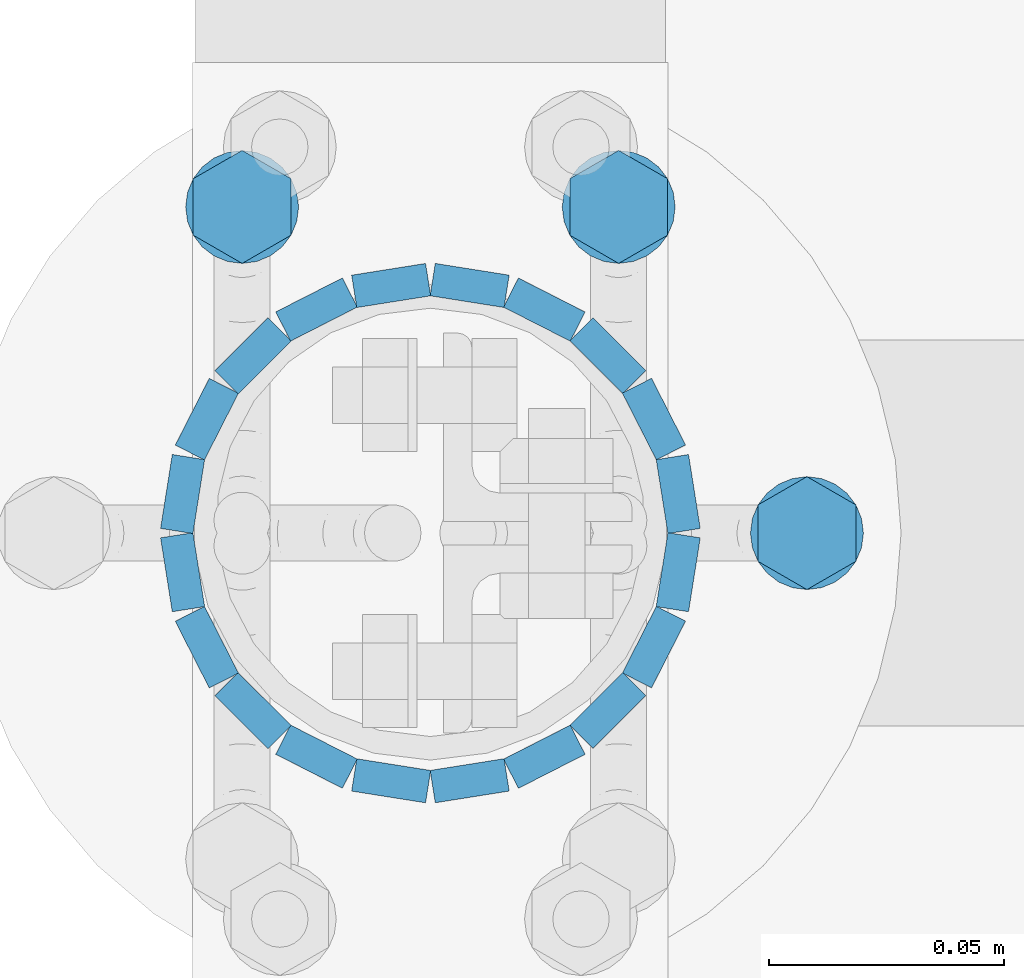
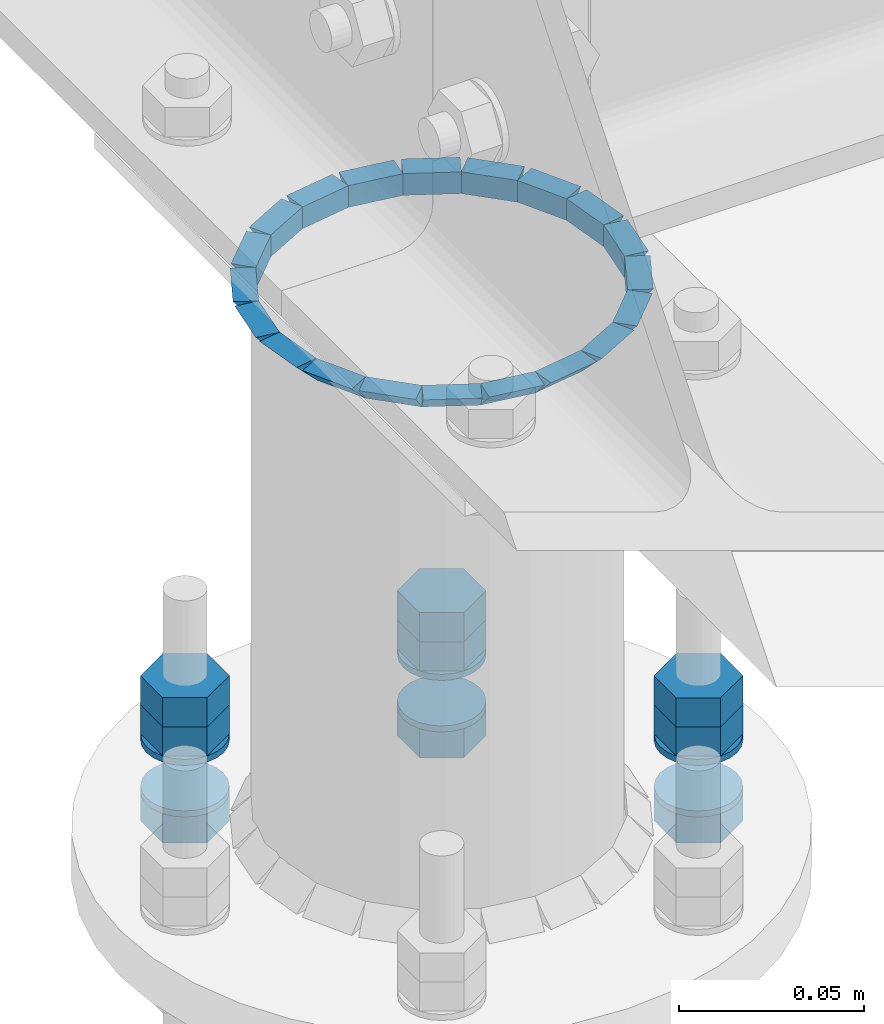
# One storey, part 75 of 84: 40 fasteners, 15 mechanical fasteners.
"""IFC4 building model written with IfcOpenShell, lengths in metres."""

from ifc_helpers import new_model, si_unit, frame, origin_with_axes, place, context, project, spatial, polyline, outline, extrude, type_object, element, save


model = new_model("IFC4")

# Units and contexts
model_context = context("Model", 3, precision=1e-05, world=origin_with_axes())
ifc_project = project(units=[si_unit("LENGTHUNIT", "METRE"), si_unit("AREAUNIT", "SQUARE_METRE"), si_unit("VOLUMEUNIT", "CUBIC_METRE"), si_unit("MASSUNIT", "GRAM", prefix="KILO"), si_unit("TIMEUNIT", "SECOND"), si_unit("PLANEANGLEUNIT", "RADIAN"), si_unit("SOLIDANGLEUNIT", "STERADIAN"), si_unit("THERMODYNAMICTEMPERATUREUNIT", "DEGREE_CELSIUS")], contexts=[model_context])

# Site, building, storey
placement_1 = place(None, origin_with_axes())
site = spatial("IfcSite", under=ifc_project, at=placement_1, Name="Italia", CompositionType="ELEMENT")
building = spatial("IfcBuilding", under=site, at=placement_1, Name="Tettoia", CompositionType="ELEMENT")
storey_placement = place(None, frame((0.0, 0.0, 4.199999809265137), z_axis=(0.0, 0.0, 1.0), x_axis=(1.0, 0.0, 0.0)))
storey = spatial("IfcBuildingStorey", under=building, at=storey_placement, Name="Storey 1", CompositionType="ELEMENT", Elevation=4.199999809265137)

# Mechanical fasteners
mechanical_fastener_type_1 = type_object("IfcMechanicalFastenerType", Name="Collegamento -014_0114", PredefinedType="BOLT")
placement_2 = place(placement_1, origin_with_axes())
mechanical_fastener_1_placement = place(placement_2, origin_with_axes())
element("IfcMechanicalFastener", 1, at=mechanical_fastener_1_placement, inside=storey, type_object=mechanical_fastener_type_1, Name="Collegamento -014_0114", NominalDiameter=0.0119993, context=model_context, shape_type="SweptSolid", body=[
    extrude(outline(polyline([(0.0, 0.0), (-0.012001, 0.0), (-0.0179996, 0.0103923), (-0.012001, 0.0207846), (0.0, 0.0207846), (0.00599861, 0.0103923), (0.0, 0.0)])), frame((0.190392, 19.826, 4.017), z_axis=(0.0, 0.0, 1.0), x_axis=(0.0, 1.0, 0.0)), (0.0, 0.0, 1.0), 0.00959969),
])
mechanical_fastener_type_2 = type_object("IfcMechanicalFastenerType", Name="Collegamento -014_0114", PredefinedType="BOLT")
mechanical_fastener_2_placement = place(placement_2, origin_with_axes())
element("IfcMechanicalFastener", 2, at=mechanical_fastener_2_placement, inside=storey, type_object=mechanical_fastener_type_2, Name="Collegamento -014_0114", NominalDiameter=0.0119993, context=model_context, shape_type="SweptSolid", body=[
    extrude(outline(polyline([(0.0, 0.0), (-0.012001, 0.0), (-0.0179996, 0.0103923), (-0.012001, 0.0207846), (0.0, 0.0207846), (0.00599861, 0.0103923), (0.0, 0.0)])), frame((0.190392, 19.826, 4.0266), z_axis=(0.0, 0.0, 1.0), x_axis=(0.0, 1.0, 0.0)), (0.0, 0.0, 1.0), 0.00960016),
])
mechanical_fastener_type_3 = type_object("IfcMechanicalFastenerType", Name="Collegamento -014_0114", PredefinedType="BOLT")
mechanical_fastener_3_placement = place(placement_2, origin_with_axes())
element("IfcMechanicalFastener", 3, at=mechanical_fastener_3_placement, inside=storey, type_object=mechanical_fastener_type_3, Name="Collegamento -014_0114", NominalDiameter=0.0119993, context=model_context, shape_type="SweptSolid", body=[
    extrude(outline(polyline([(0.0, 0.0), (-0.012001, 0.0), (-0.0179996, 0.0103923), (-0.012001, 0.0207846), (0.0, 0.0207846), (0.00599861, 0.0103923), (0.0, 0.0)])), frame((0.190392, 19.826, 3.9884), z_axis=(0.0, 0.0, 1.0), x_axis=(0.0, 1.0, 0.0)), (0.0, 0.0, 1.0), 0.00959992),
])
mechanical_fastener_type_4 = type_object("IfcMechanicalFastenerType", Name="Collegamento -014_0114", PredefinedType="BOLT")
mechanical_fastener_4_placement = place(placement_2, origin_with_axes())
element("IfcMechanicalFastener", 4, at=mechanical_fastener_4_placement, inside=storey, type_object=mechanical_fastener_type_4, Name="Collegamento -014_0114", NominalDiameter=0.024, context=model_context, shape_type="SweptSolid", body=[
    extrude(outline(polyline([(0.0, 0.0), (-0.000408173, -0.00310583), (-0.00160599, -0.006), (-0.00351334, -0.00848529), (-0.00599861, -0.0103923), (-0.00889397, -0.0115911), (-0.0119991, -0.012), (-0.0151043, -0.0115911), (-0.0179996, -0.0103923), (-0.0204849, -0.00848529), (-0.0223923, -0.006), (-0.0235901, -0.00310583), (-0.0239983, 0.0), (-0.0235901, 0.00310583), (-0.0223923, 0.006), (-0.0204849, 0.00848529), (-0.0179996, 0.0103923), (-0.0151043, 0.0115911), (-0.0119991, 0.012), (-0.00889397, 0.0115911), (-0.00599861, 0.0103923), (-0.00351334, 0.00848527), (-0.00160599, 0.006), (-0.000408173, 0.00310582), (0.0, 0.0)])), frame((0.18, 19.832, 4.015), z_axis=(0.0, 0.0, 1.0), x_axis=(0.0, 1.0, 0.0)), (0.0, 0.0, 1.0), 0.00200033),
])
mechanical_fastener_type_5 = type_object("IfcMechanicalFastenerType", Name="Collegamento -014_0114", PredefinedType="BOLT")
mechanical_fastener_5_placement = place(placement_2, origin_with_axes())
element("IfcMechanicalFastener", 5, at=mechanical_fastener_5_placement, inside=storey, type_object=mechanical_fastener_type_5, Name="Collegamento -014_0114", NominalDiameter=0.024, context=model_context, shape_type="SweptSolid", body=[
    extrude(outline(polyline([(0.0, 0.0), (-0.000408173, -0.00310583), (-0.00160599, -0.006), (-0.00351334, -0.00848529), (-0.00599861, -0.0103923), (-0.00889397, -0.0115911), (-0.0119991, -0.012), (-0.0151043, -0.0115911), (-0.0179996, -0.0103923), (-0.0204849, -0.00848529), (-0.0223923, -0.006), (-0.0235901, -0.00310583), (-0.0239983, 0.0), (-0.0235901, 0.00310583), (-0.0223923, 0.006), (-0.0204849, 0.00848529), (-0.0179996, 0.0103923), (-0.0151043, 0.0115911), (-0.0119991, 0.012), (-0.00889397, 0.0115911), (-0.00599861, 0.0103923), (-0.00351334, 0.00848527), (-0.00160599, 0.006), (-0.000408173, 0.00310582), (0.0, 0.0)])), frame((0.18, 19.832, 3.998), z_axis=(0.0, 0.0, 1.0), x_axis=(0.0, 1.0, 0.0)), (0.0, 0.0, 1.0), 0.00200009),
])
mechanical_fastener_type_6 = type_object("IfcMechanicalFastenerType", Name="Collegamento -014_0114", PredefinedType="BOLT")
mechanical_fastener_6_placement = place(placement_2, origin_with_axes())
element("IfcMechanicalFastener", 6, at=mechanical_fastener_6_placement, inside=storey, type_object=mechanical_fastener_type_6, Name="Collegamento -014_0114", NominalDiameter=0.0119991, context=model_context, shape_type="SweptSolid", body=[
    extrude(outline(polyline([(0.0, 0.0), (-0.0119991, 0.0), (-0.0179996, 0.0103923), (-0.0119991, 0.0207846), (0.0, 0.0207846), (0.00600052, 0.0103923), (0.0, 0.0)])), frame((0.150392, 19.8953, 4.017), z_axis=(0.0, 0.0, 1.0), x_axis=(0.0, 1.0, 0.0)), (0.0, 0.0, 1.0), 0.00959969),
])
mechanical_fastener_type_7 = type_object("IfcMechanicalFastenerType", Name="Collegamento -014_0114", PredefinedType="BOLT")
mechanical_fastener_7_placement = place(placement_2, origin_with_axes())
element("IfcMechanicalFastener", 7, at=mechanical_fastener_7_placement, inside=storey, type_object=mechanical_fastener_type_7, Name="Collegamento -014_0114", NominalDiameter=0.0119991, context=model_context, shape_type="SweptSolid", body=[
    extrude(outline(polyline([(0.0, 0.0), (-0.0119991, 0.0), (-0.0179996, 0.0103923), (-0.0119991, 0.0207846), (0.0, 0.0207846), (0.00600052, 0.0103923), (0.0, 0.0)])), frame((0.150392, 19.8953, 4.0266), z_axis=(0.0, 0.0, 1.0), x_axis=(0.0, 1.0, 0.0)), (0.0, 0.0, 1.0), 0.00960016),
])
mechanical_fastener_type_8 = type_object("IfcMechanicalFastenerType", Name="Collegamento -014_0114", PredefinedType="BOLT")
mechanical_fastener_8_placement = place(placement_2, origin_with_axes())
element("IfcMechanicalFastener", 8, at=mechanical_fastener_8_placement, inside=storey, type_object=mechanical_fastener_type_8, Name="Collegamento -014_0114", NominalDiameter=0.0119991, context=model_context, shape_type="SweptSolid", body=[
    extrude(outline(polyline([(0.0, 0.0), (-0.0119991, 0.0), (-0.0179996, 0.0103923), (-0.0119991, 0.0207846), (0.0, 0.0207846), (0.00600052, 0.0103923), (0.0, 0.0)])), frame((0.150392, 19.8953, 3.9884), z_axis=(0.0, 0.0, 1.0), x_axis=(0.0, 1.0, 0.0)), (0.0, 0.0, 1.0), 0.00959992),
])
mechanical_fastener_type_9 = type_object("IfcMechanicalFastenerType", Name="Collegamento -014_0114", PredefinedType="BOLT")
mechanical_fastener_9_placement = place(placement_2, origin_with_axes())
element("IfcMechanicalFastener", 9, at=mechanical_fastener_9_placement, inside=storey, type_object=mechanical_fastener_type_9, Name="Collegamento -014_0114", NominalDiameter=0.024, context=model_context, shape_type="SweptSolid", body=[
    extrude(outline(polyline([(0.0, 0.0), (-0.000408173, -0.00310583), (-0.00160599, -0.006), (-0.00351334, -0.00848529), (-0.00599861, -0.0103923), (-0.00889397, -0.0115911), (-0.0119991, -0.012), (-0.0151043, -0.0115911), (-0.0179996, -0.0103923), (-0.0204849, -0.00848529), (-0.0223923, -0.006), (-0.0235901, -0.00310583), (-0.0239983, 0.0), (-0.0235901, 0.00310583), (-0.0223923, 0.006), (-0.0204849, 0.00848529), (-0.0179996, 0.0103923), (-0.0151043, 0.0115911), (-0.0119991, 0.012), (-0.00889397, 0.0115911), (-0.00599861, 0.0103923), (-0.00351334, 0.00848527), (-0.00160599, 0.006), (-0.000408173, 0.00310582), (0.0, 0.0)])), frame((0.14, 19.9013, 4.015), z_axis=(0.0, 0.0, 1.0), x_axis=(0.0, 1.0, 0.0)), (0.0, 0.0, 1.0), 0.00200033),
])
mechanical_fastener_type_10 = type_object("IfcMechanicalFastenerType", Name="Collegamento -014_0114", PredefinedType="BOLT")
mechanical_fastener_10_placement = place(placement_2, origin_with_axes())
element("IfcMechanicalFastener", 10, at=mechanical_fastener_10_placement, inside=storey, type_object=mechanical_fastener_type_10, Name="Collegamento -014_0114", NominalDiameter=0.024, context=model_context, shape_type="SweptSolid", body=[
    extrude(outline(polyline([(0.0, 0.0), (-0.000408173, -0.00310583), (-0.00160599, -0.006), (-0.00351334, -0.00848529), (-0.00599861, -0.0103923), (-0.00889397, -0.0115911), (-0.0119991, -0.012), (-0.0151043, -0.0115911), (-0.0179996, -0.0103923), (-0.0204849, -0.00848529), (-0.0223923, -0.006), (-0.0235901, -0.00310583), (-0.0239983, 0.0), (-0.0235901, 0.00310583), (-0.0223923, 0.006), (-0.0204849, 0.00848529), (-0.0179996, 0.0103923), (-0.0151043, 0.0115911), (-0.0119991, 0.012), (-0.00889397, 0.0115911), (-0.00599861, 0.0103923), (-0.00351334, 0.00848527), (-0.00160599, 0.006), (-0.000408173, 0.00310582), (0.0, 0.0)])), frame((0.14, 19.9013, 3.998), z_axis=(0.0, 0.0, 1.0), x_axis=(0.0, 1.0, 0.0)), (0.0, 0.0, 1.0), 0.00200009),
])
mechanical_fastener_type_11 = type_object("IfcMechanicalFastenerType", Name="Collegamento -014_0114", PredefinedType="BOLT")
mechanical_fastener_11_placement = place(placement_2, origin_with_axes())
element("IfcMechanicalFastener", 11, at=mechanical_fastener_11_placement, inside=storey, type_object=mechanical_fastener_type_11, Name="Collegamento -014_0114", NominalDiameter=0.0119991, context=model_context, shape_type="SweptSolid", body=[
    extrude(outline(polyline([(0.0, 0.0), (-0.0119991, 0.0), (-0.0179996, 0.0103923), (-0.0119991, 0.0207846), (0.0, 0.0207846), (0.00600052, 0.0103923), (0.0, 0.0)])), frame((0.0703923, 19.8953, 4.017), z_axis=(0.0, 0.0, 1.0), x_axis=(0.0, 1.0, 0.0)), (0.0, 0.0, 1.0), 0.00959969),
])
mechanical_fastener_type_12 = type_object("IfcMechanicalFastenerType", Name="Collegamento -014_0114", PredefinedType="BOLT")
mechanical_fastener_12_placement = place(placement_2, origin_with_axes())
element("IfcMechanicalFastener", 12, at=mechanical_fastener_12_placement, inside=storey, type_object=mechanical_fastener_type_12, Name="Collegamento -014_0114", NominalDiameter=0.0119991, context=model_context, shape_type="SweptSolid", body=[
    extrude(outline(polyline([(0.0, 0.0), (-0.0119991, 0.0), (-0.0179996, 0.0103923), (-0.0119991, 0.0207846), (0.0, 0.0207846), (0.00600052, 0.0103923), (0.0, 0.0)])), frame((0.0703923, 19.8953, 4.0266), z_axis=(0.0, 0.0, 1.0), x_axis=(0.0, 1.0, 0.0)), (0.0, 0.0, 1.0), 0.00960016),
])
mechanical_fastener_type_13 = type_object("IfcMechanicalFastenerType", Name="Collegamento -014_0114", PredefinedType="BOLT")
mechanical_fastener_13_placement = place(placement_2, origin_with_axes())
element("IfcMechanicalFastener", 13, at=mechanical_fastener_13_placement, inside=storey, type_object=mechanical_fastener_type_13, Name="Collegamento -014_0114", NominalDiameter=0.0119991, context=model_context, shape_type="SweptSolid", body=[
    extrude(outline(polyline([(0.0, 0.0), (-0.0119991, 0.0), (-0.0179996, 0.0103923), (-0.0119991, 0.0207846), (0.0, 0.0207846), (0.00600052, 0.0103923), (0.0, 0.0)])), frame((0.0703923, 19.8953, 3.9884), z_axis=(0.0, 0.0, 1.0), x_axis=(0.0, 1.0, 0.0)), (0.0, 0.0, 1.0), 0.00959992),
])
mechanical_fastener_type_14 = type_object("IfcMechanicalFastenerType", Name="Collegamento -014_0114", PredefinedType="BOLT")
mechanical_fastener_14_placement = place(placement_2, origin_with_axes())
element("IfcMechanicalFastener", 14, at=mechanical_fastener_14_placement, inside=storey, type_object=mechanical_fastener_type_14, Name="Collegamento -014_0114", NominalDiameter=0.024, context=model_context, shape_type="SweptSolid", body=[
    extrude(outline(polyline([(0.0, 0.0), (-0.000408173, -0.00310583), (-0.00160599, -0.006), (-0.00351334, -0.00848528), (-0.00599861, -0.0103923), (-0.00889397, -0.0115911), (-0.0119991, -0.012), (-0.0151043, -0.0115911), (-0.0179996, -0.0103923), (-0.0204849, -0.00848528), (-0.0223923, -0.006), (-0.0235901, -0.00310583), (-0.0239983, 0.0), (-0.0235901, 0.00310583), (-0.0223923, 0.006), (-0.0204849, 0.00848528), (-0.0179996, 0.0103923), (-0.0151043, 0.0115911), (-0.0119991, 0.012), (-0.00889397, 0.0115911), (-0.00599861, 0.0103923), (-0.00351334, 0.00848528), (-0.00160599, 0.006), (-0.000408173, 0.00310583), (0.0, 0.0)])), frame((0.06, 19.9013, 4.015), z_axis=(0.0, 0.0, 1.0), x_axis=(0.0, 1.0, 0.0)), (0.0, 0.0, 1.0), 0.00200033),
])
mechanical_fastener_type_15 = type_object("IfcMechanicalFastenerType", Name="Collegamento -014_0114", PredefinedType="BOLT")
mechanical_fastener_15_placement = place(placement_2, origin_with_axes())
element("IfcMechanicalFastener", 15, at=mechanical_fastener_15_placement, inside=storey, type_object=mechanical_fastener_type_15, Name="Collegamento -014_0114", NominalDiameter=0.024, context=model_context, shape_type="SweptSolid", body=[
    extrude(outline(polyline([(0.0, 0.0), (-0.000408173, -0.00310583), (-0.00160599, -0.006), (-0.00351334, -0.00848528), (-0.00599861, -0.0103923), (-0.00889397, -0.0115911), (-0.0119991, -0.012), (-0.0151043, -0.0115911), (-0.0179996, -0.0103923), (-0.0204849, -0.00848528), (-0.0223923, -0.006), (-0.0235901, -0.00310583), (-0.0239983, 0.0), (-0.0235901, 0.00310583), (-0.0223923, 0.006), (-0.0204849, 0.00848528), (-0.0179996, 0.0103923), (-0.0151043, 0.0115911), (-0.0119991, 0.012), (-0.00889397, 0.0115911), (-0.00599861, 0.0103923), (-0.00351334, 0.00848528), (-0.00160599, 0.006), (-0.000408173, 0.00310583), (0.0, 0.0)])), frame((0.06, 19.9013, 3.998), z_axis=(0.0, 0.0, 1.0), x_axis=(0.0, 1.0, 0.0)), (0.0, 0.0, 1.0), 0.00200009),
])

# Fasteners
fastener_type_1 = type_object("IfcFastenerType", Name="Collegamento 0114_-014", PredefinedType="WELD")
fastener_1_placement = place(placement_2, origin_with_axes())
element("IfcFastener", 16, at=fastener_1_placement, inside=storey, type_object=fastener_type_1, Name="Collegamento 0114_-014", context=model_context, shape_type="SweptSolid", body=[
    extrude(outline(polyline([(0.0, 0.0), (-0.0069561, -0.00717354), (-0.0069561, 0.0), (0.0, 0.0)])), frame((0.101031, 19.8773, 4.19505), z_axis=(0.98768937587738, -0.15642786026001, 0.0), x_axis=(0.15642786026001, 0.98768937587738, 0.0)), (0.0, 0.0, 1.0), 0.0158999),
])
fastener_type_2 = type_object("IfcFastenerType", Name="Collegamento 0114_-014", PredefinedType="WELD")
fastener_2_placement = place(placement_2, origin_with_axes())
element("IfcFastener", 17, at=fastener_2_placement, inside=storey, type_object=fastener_type_2, Name="Collegamento 0114_-014", context=model_context, shape_type="SweptSolid", body=[
    extrude(outline(polyline([(0.0, 0.0), (-0.0069561, -0.00717354), (-0.0069561, 0.0), (0.0, 0.0)])), frame((0.118697, 19.8742, 4.19505), z_axis=(0.890983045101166, -0.454036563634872, 0.0), x_axis=(0.454036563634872, 0.890983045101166, 0.0)), (0.0, 0.0, 1.0), 0.0159003),
])
fastener_type_3 = type_object("IfcFastenerType", Name="Collegamento 0114_-014", PredefinedType="WELD")
fastener_3_placement = place(placement_2, origin_with_axes())
element("IfcFastener", 18, at=fastener_3_placement, inside=storey, type_object=fastener_type_3, Name="Collegamento 0114_-014", context=model_context, shape_type="SweptSolid", body=[
    extrude(outline(polyline([(0.0, 0.0), (-0.00695896, -0.00717354), (-0.00695896, 0.0), (0.0, 0.0)])), frame((0.134532, 19.8658, 4.19505), z_axis=(0.707138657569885, -0.707074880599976, 0.0), x_axis=(0.707074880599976, 0.707138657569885, 0.0)), (0.0, 0.0, 1.0), 0.0158992),
])
fastener_type_4 = type_object("IfcFastenerType", Name="Collegamento 0114_-014", PredefinedType="WELD")
fastener_4_placement = place(placement_2, origin_with_axes())
element("IfcFastener", 19, at=fastener_4_placement, inside=storey, type_object=fastener_type_4, Name="Collegamento 0114_-014", context=model_context, shape_type="SweptSolid", body=[
    extrude(outline(polyline([(0.0, 0.0), (-0.00695896, -0.00717354), (-0.00695896, 0.0), (0.0, 0.0)])), frame((0.146988, 19.8529, 4.19505), z_axis=(0.453968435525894, -0.89101779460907, 0.0), x_axis=(0.89101779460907, 0.453968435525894, 0.0)), (0.0, 0.0, 1.0), 0.0159007),
])
fastener_type_5 = type_object("IfcFastenerType", Name="Collegamento 0114_-014", PredefinedType="WELD")
fastener_5_placement = place(placement_2, origin_with_axes())
element("IfcFastener", 20, at=fastener_5_placement, inside=storey, type_object=fastener_type_5, Name="Collegamento 0114_-014", context=model_context, shape_type="SweptSolid", body=[
    extrude(outline(polyline([(0.0, 0.0), (-0.00695825, -0.00717354), (-0.00695825, 0.0), (0.0, 0.0)])), frame((0.154844, 19.8367, 4.19505), z_axis=(0.156442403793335, -0.987687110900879, 0.0), x_axis=(0.987687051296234, 0.156442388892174, 0.0)), (0.0, 0.0, 1.0), 0.015899),
])
fastener_type_6 = type_object("IfcFastenerType", Name="Collegamento 0114_-014", PredefinedType="WELD")
fastener_6_placement = place(placement_2, origin_with_axes())
element("IfcFastener", 21, at=fastener_6_placement, inside=storey, type_object=fastener_type_6, Name="Collegamento 0114_-014", context=model_context, shape_type="SweptSolid", body=[
    extrude(outline(polyline([(0.0, 0.0), (-0.00695825, -0.00717354), (-0.00695825, 0.0), (0.0, 0.0)])), frame((0.157331, 19.819, 4.19505), z_axis=(-0.156442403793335, -0.987687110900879, 0.0), x_axis=(0.987687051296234, -0.156442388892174, 0.0)), (0.0, 0.0, 1.0), 0.015899),
])
fastener_type_7 = type_object("IfcFastenerType", Name="Collegamento 0114_-014", PredefinedType="WELD")
fastener_7_placement = place(placement_2, origin_with_axes())
element("IfcFastener", 22, at=fastener_7_placement, inside=storey, type_object=fastener_type_7, Name="Collegamento 0114_-014", context=model_context, shape_type="SweptSolid", body=[
    extrude(outline(polyline([(0.0, 0.0), (-0.00695801, -0.00717354), (-0.00695801, 0.0), (0.0, 0.0)])), frame((0.154206, 19.8013, 4.19505), z_axis=(-0.453967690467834, -0.891018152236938, 0.0), x_axis=(0.891018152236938, -0.453967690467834, 0.0)), (0.0, 0.0, 1.0), 0.0159007),
])
fastener_type_8 = type_object("IfcFastenerType", Name="Collegamento 0114_-014", PredefinedType="WELD")
fastener_8_placement = place(placement_2, origin_with_axes())
element("IfcFastener", 23, at=fastener_8_placement, inside=storey, type_object=fastener_type_8, Name="Collegamento 0114_-014", context=model_context, shape_type="SweptSolid", body=[
    extrude(outline(polyline([(0.0, 0.0), (-0.00695896, -0.00717354), (-0.00695896, 0.0), (0.0, 0.0)])), frame((0.145775, 19.7855, 4.19505), z_axis=(-0.707139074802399, -0.707074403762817, 0.0), x_axis=(0.707074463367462, -0.707139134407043, 0.0)), (0.0, 0.0, 1.0), 0.0158992),
])
fastener_type_9 = type_object("IfcFastenerType", Name="Collegamento 0114_-014", PredefinedType="WELD")
fastener_9_placement = place(placement_2, origin_with_axes())
element("IfcFastener", 24, at=fastener_9_placement, inside=storey, type_object=fastener_type_9, Name="Collegamento 0114_-014", context=model_context, shape_type="SweptSolid", body=[
    extrude(outline(polyline([(0.0, 0.0), (-0.00695801, -0.00717354), (-0.00695801, 0.0), (0.0, 0.0)])), frame((0.132864, 19.773, 4.19505), z_axis=(-0.890983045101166, -0.454036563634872, 0.0), x_axis=(0.454036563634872, -0.890983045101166, 0.0)), (0.0, 0.0, 1.0), 0.0159003),
])
fastener_type_10 = type_object("IfcFastenerType", Name="Collegamento 0114_-014", PredefinedType="WELD")
fastener_10_placement = place(placement_2, origin_with_axes())
element("IfcFastener", 25, at=fastener_10_placement, inside=storey, type_object=fastener_type_10, Name="Collegamento 0114_-014", context=model_context, shape_type="SweptSolid", body=[
    extrude(outline(polyline([(0.0, 0.0), (-0.0069561, -0.00717354), (-0.0069561, 0.0), (0.0, 0.0)])), frame((0.116736, 19.7652, 4.19505), z_axis=(-0.98768937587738, -0.156428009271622, 0.0), x_axis=(0.156428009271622, -0.98768937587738, 0.0)), (0.0, 0.0, 1.0), 0.0158999),
])
fastener_type_11 = type_object("IfcFastenerType", Name="Collegamento 0114_-014", PredefinedType="WELD")
fastener_11_placement = place(placement_2, origin_with_axes())
element("IfcFastener", 26, at=fastener_11_placement, inside=storey, type_object=fastener_type_11, Name="Collegamento 0114_-014", context=model_context, shape_type="SweptSolid", body=[
    extrude(outline(polyline([(0.0, 0.0), (-0.0069561, -0.00717354), (-0.0069561, 0.0), (0.0, 0.0)])), frame((0.0989686, 19.7627, 4.19505), z_axis=(-0.98768937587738, 0.156428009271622, 0.0), x_axis=(-0.156428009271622, -0.98768937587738, 0.0)), (0.0, 0.0, 1.0), 0.0158999),
])
fastener_type_12 = type_object("IfcFastenerType", Name="Collegamento 0114_-014", PredefinedType="WELD")
fastener_12_placement = place(placement_2, origin_with_axes())
element("IfcFastener", 27, at=fastener_12_placement, inside=storey, type_object=fastener_type_12, Name="Collegamento 0114_-014", context=model_context, shape_type="SweptSolid", body=[
    extrude(outline(polyline([(0.0, 0.0), (-0.00695801, -0.00717354), (-0.00695801, 0.0), (0.0, 0.0)])), frame((0.0813028, 19.7658, 4.19505), z_axis=(-0.890983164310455, 0.454036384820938, 0.0), x_axis=(-0.454036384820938, -0.890983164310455, 0.0)), (0.0, 0.0, 1.0), 0.0159003),
])
fastener_type_13 = type_object("IfcFastenerType", Name="Collegamento 0114_-014", PredefinedType="WELD")
fastener_13_placement = place(placement_2, origin_with_axes())
element("IfcFastener", 28, at=fastener_13_placement, inside=storey, type_object=fastener_type_13, Name="Collegamento 0114_-014", context=model_context, shape_type="SweptSolid", body=[
    extrude(outline(polyline([(0.0, 0.0), (-0.00695896, -0.00717354), (-0.00695896, 0.0), (0.0, 0.0)])), frame((0.0654676, 19.7742, 4.19505), z_axis=(-0.707138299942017, 0.707075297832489, 0.0), x_axis=(-0.707075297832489, -0.707138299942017, 0.0)), (0.0, 0.0, 1.0), 0.0158992),
])
fastener_type_14 = type_object("IfcFastenerType", Name="Collegamento 0114_-014", PredefinedType="WELD")
fastener_14_placement = place(placement_2, origin_with_axes())
element("IfcFastener", 29, at=fastener_14_placement, inside=storey, type_object=fastener_type_14, Name="Collegamento 0114_-014", context=model_context, shape_type="SweptSolid", body=[
    extrude(outline(polyline([(0.0, 0.0), (-0.00695896, -0.00717354), (-0.00695896, 0.0), (0.0, 0.0)])), frame((0.0530121, 19.7871, 4.19505), z_axis=(-0.453967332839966, 0.891018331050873, 0.0), x_axis=(-0.891018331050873, -0.453967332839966, 0.0)), (0.0, 0.0, 1.0), 0.0159007),
])
fastener_type_15 = type_object("IfcFastenerType", Name="Collegamento 0114_-014", PredefinedType="WELD")
fastener_15_placement = place(placement_2, origin_with_axes())
element("IfcFastener", 30, at=fastener_15_placement, inside=storey, type_object=fastener_type_15, Name="Collegamento 0114_-014", context=model_context, shape_type="SweptSolid", body=[
    extrude(outline(polyline([(0.0, 0.0), (-0.00695801, -0.00717354), (-0.00695801, 0.0), (0.0, 0.0)])), frame((0.0451564, 19.8033, 4.19505), z_axis=(-0.156443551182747, 0.987686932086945, 0.0), x_axis=(-0.9876868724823, -0.156443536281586, 0.0)), (0.0, 0.0, 1.0), 0.015899),
])
fastener_type_16 = type_object("IfcFastenerType", Name="Collegamento 0114_-014", PredefinedType="WELD")
fastener_16_placement = place(placement_2, origin_with_axes())
element("IfcFastener", 31, at=fastener_16_placement, inside=storey, type_object=fastener_type_16, Name="Collegamento 0114_-014", context=model_context, shape_type="SweptSolid", body=[
    extrude(outline(polyline([(0.0, 0.0), (-0.00695825, -0.00717354), (-0.00695825, 0.0), (0.0, 0.0)])), frame((0.0426691, 19.821, 4.19505), z_axis=(0.156443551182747, 0.987686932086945, 0.0), x_axis=(-0.9876868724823, 0.156443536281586, 0.0)), (0.0, 0.0, 1.0), 0.015899),
])
fastener_type_17 = type_object("IfcFastenerType", Name="Collegamento 0114_-014", PredefinedType="WELD")
fastener_17_placement = place(placement_2, origin_with_axes())
element("IfcFastener", 32, at=fastener_17_placement, inside=storey, type_object=fastener_type_17, Name="Collegamento 0114_-014", context=model_context, shape_type="SweptSolid", body=[
    extrude(outline(polyline([(0.0, 0.0), (-0.00695801, -0.00717354), (-0.00695801, 0.0), (0.0, 0.0)])), frame((0.0457937, 19.8387, 4.19505), z_axis=(0.453968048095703, 0.891017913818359, 0.0), x_axis=(-0.891017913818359, 0.453968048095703, 0.0)), (0.0, 0.0, 1.0), 0.0159007),
])
fastener_type_18 = type_object("IfcFastenerType", Name="Collegamento 0114_-014", PredefinedType="WELD")
fastener_18_placement = place(placement_2, origin_with_axes())
element("IfcFastener", 33, at=fastener_18_placement, inside=storey, type_object=fastener_type_18, Name="Collegamento 0114_-014", context=model_context, shape_type="SweptSolid", body=[
    extrude(outline(polyline([(0.0, 0.0), (-0.00695896, -0.00717354), (-0.00695896, 0.0), (0.0, 0.0)])), frame((0.0542247, 19.8545, 4.19505), z_axis=(0.707138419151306, 0.707075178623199, 0.0), x_axis=(-0.707075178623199, 0.707138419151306, 0.0)), (0.0, 0.0, 1.0), 0.0158992),
])
fastener_type_19 = type_object("IfcFastenerType", Name="Collegamento 0114_-014", PredefinedType="WELD")
fastener_19_placement = place(placement_2, origin_with_axes())
element("IfcFastener", 34, at=fastener_19_placement, inside=storey, type_object=fastener_type_19, Name="Collegamento 0114_-014", context=model_context, shape_type="SweptSolid", body=[
    extrude(outline(polyline([(0.0, 0.0), (-0.00695801, -0.00717354), (-0.00695801, 0.0), (0.0, 0.0)])), frame((0.0671359, 19.867, 4.19505), z_axis=(0.890982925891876, 0.454036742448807, 0.0), x_axis=(-0.454036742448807, 0.890982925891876, 0.0)), (0.0, 0.0, 1.0), 0.0159003),
])
fastener_type_20 = type_object("IfcFastenerType", Name="Collegamento 0114_-014", PredefinedType="WELD")
fastener_20_placement = place(placement_2, origin_with_axes())
element("IfcFastener", 35, at=fastener_20_placement, inside=storey, type_object=fastener_type_20, Name="Collegamento 0114_-014", context=model_context, shape_type="SweptSolid", body=[
    extrude(outline(polyline([(0.0, 0.0), (-0.00695801, -0.00717354), (-0.00695801, 0.0), (0.0, 0.0)])), frame((0.0832645, 19.8748, 4.19505), z_axis=(0.98768937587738, 0.15642786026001, 0.0), x_axis=(-0.15642786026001, 0.98768937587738, 0.0)), (0.0, 0.0, 1.0), 0.0158999),
])
fastener_type_21 = type_object("IfcFastenerType", Name="Collegamento 0114_-014", PredefinedType="WELD")
fastener_21_placement = place(placement_2, origin_with_axes())
element("IfcFastener", 36, at=fastener_21_placement, inside=storey, type_object=fastener_type_21, Name="Collegamento 0114_-014", context=model_context, shape_type="SweptSolid", body=[
    extrude(outline(polyline([(0.0, 0.0), (-0.0069561, -0.00717354), (-0.0069561, 0.0), (0.0, 0.0)])), frame((0.101031, 19.8773, 4.19505), z_axis=(0.98768937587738, -0.15642786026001, 0.0), x_axis=(0.15642786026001, 0.98768937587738, 0.0)), (0.0, 0.0, 1.0), 0.0158999),
])
fastener_type_22 = type_object("IfcFastenerType", Name="Collegamento 0114_-014", PredefinedType="WELD")
fastener_22_placement = place(placement_2, origin_with_axes())
element("IfcFastener", 37, at=fastener_22_placement, inside=storey, type_object=fastener_type_22, Name="Collegamento 0114_-014", context=model_context, shape_type="SweptSolid", body=[
    extrude(outline(polyline([(0.0, 0.0), (-0.0069561, -0.00717354), (-0.0069561, 0.0), (0.0, 0.0)])), frame((0.118697, 19.8742, 4.19505), z_axis=(0.890983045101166, -0.454036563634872, 0.0), x_axis=(0.454036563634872, 0.890983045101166, 0.0)), (0.0, 0.0, 1.0), 0.0159003),
])
fastener_type_23 = type_object("IfcFastenerType", Name="Collegamento 0114_-014", PredefinedType="WELD")
fastener_23_placement = place(placement_2, origin_with_axes())
element("IfcFastener", 38, at=fastener_23_placement, inside=storey, type_object=fastener_type_23, Name="Collegamento 0114_-014", context=model_context, shape_type="SweptSolid", body=[
    extrude(outline(polyline([(0.0, 0.0), (-0.00695896, -0.00717354), (-0.00695896, 0.0), (0.0, 0.0)])), frame((0.134532, 19.8658, 4.19505), z_axis=(0.707138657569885, -0.707074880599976, 0.0), x_axis=(0.707074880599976, 0.707138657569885, 0.0)), (0.0, 0.0, 1.0), 0.0158992),
])
fastener_type_24 = type_object("IfcFastenerType", Name="Collegamento 0114_-014", PredefinedType="WELD")
fastener_24_placement = place(placement_2, origin_with_axes())
element("IfcFastener", 39, at=fastener_24_placement, inside=storey, type_object=fastener_type_24, Name="Collegamento 0114_-014", context=model_context, shape_type="SweptSolid", body=[
    extrude(outline(polyline([(0.0, 0.0), (-0.00695896, -0.00717354), (-0.00695896, 0.0), (0.0, 0.0)])), frame((0.146988, 19.8529, 4.19505), z_axis=(0.453968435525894, -0.89101779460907, 0.0), x_axis=(0.89101779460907, 0.453968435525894, 0.0)), (0.0, 0.0, 1.0), 0.0159007),
])
fastener_type_25 = type_object("IfcFastenerType", Name="Collegamento 0114_-014", PredefinedType="WELD")
fastener_25_placement = place(placement_2, origin_with_axes())
element("IfcFastener", 40, at=fastener_25_placement, inside=storey, type_object=fastener_type_25, Name="Collegamento 0114_-014", context=model_context, shape_type="SweptSolid", body=[
    extrude(outline(polyline([(0.0, 0.0), (-0.00695825, -0.00717354), (-0.00695825, 0.0), (0.0, 0.0)])), frame((0.154844, 19.8367, 4.19505), z_axis=(0.156442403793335, -0.987687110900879, 0.0), x_axis=(0.987687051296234, 0.156442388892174, 0.0)), (0.0, 0.0, 1.0), 0.015899),
])
fastener_type_26 = type_object("IfcFastenerType", Name="Collegamento 0114_-014", PredefinedType="WELD")
fastener_26_placement = place(placement_2, origin_with_axes())
element("IfcFastener", 41, at=fastener_26_placement, inside=storey, type_object=fastener_type_26, Name="Collegamento 0114_-014", context=model_context, shape_type="SweptSolid", body=[
    extrude(outline(polyline([(0.0, 0.0), (-0.00695825, -0.00717354), (-0.00695825, 0.0), (0.0, 0.0)])), frame((0.157331, 19.819, 4.19505), z_axis=(-0.156442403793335, -0.987687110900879, 0.0), x_axis=(0.987687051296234, -0.156442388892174, 0.0)), (0.0, 0.0, 1.0), 0.015899),
])
fastener_type_27 = type_object("IfcFastenerType", Name="Collegamento 0114_-014", PredefinedType="WELD")
fastener_27_placement = place(placement_2, origin_with_axes())
element("IfcFastener", 42, at=fastener_27_placement, inside=storey, type_object=fastener_type_27, Name="Collegamento 0114_-014", context=model_context, shape_type="SweptSolid", body=[
    extrude(outline(polyline([(0.0, 0.0), (-0.00695801, -0.00717354), (-0.00695801, 0.0), (0.0, 0.0)])), frame((0.154206, 19.8013, 4.19505), z_axis=(-0.453967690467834, -0.891018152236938, 0.0), x_axis=(0.891018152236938, -0.453967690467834, 0.0)), (0.0, 0.0, 1.0), 0.0159007),
])
fastener_type_28 = type_object("IfcFastenerType", Name="Collegamento 0114_-014", PredefinedType="WELD")
fastener_28_placement = place(placement_2, origin_with_axes())
element("IfcFastener", 43, at=fastener_28_placement, inside=storey, type_object=fastener_type_28, Name="Collegamento 0114_-014", context=model_context, shape_type="SweptSolid", body=[
    extrude(outline(polyline([(0.0, 0.0), (-0.00695896, -0.00717354), (-0.00695896, 0.0), (0.0, 0.0)])), frame((0.145775, 19.7855, 4.19505), z_axis=(-0.707139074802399, -0.707074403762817, 0.0), x_axis=(0.707074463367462, -0.707139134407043, 0.0)), (0.0, 0.0, 1.0), 0.0158992),
])
fastener_type_29 = type_object("IfcFastenerType", Name="Collegamento 0114_-014", PredefinedType="WELD")
fastener_29_placement = place(placement_2, origin_with_axes())
element("IfcFastener", 44, at=fastener_29_placement, inside=storey, type_object=fastener_type_29, Name="Collegamento 0114_-014", context=model_context, shape_type="SweptSolid", body=[
    extrude(outline(polyline([(0.0, 0.0), (-0.00695801, -0.00717354), (-0.00695801, 0.0), (0.0, 0.0)])), frame((0.132864, 19.773, 4.19505), z_axis=(-0.890983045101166, -0.454036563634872, 0.0), x_axis=(0.454036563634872, -0.890983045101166, 0.0)), (0.0, 0.0, 1.0), 0.0159003),
])
fastener_type_30 = type_object("IfcFastenerType", Name="Collegamento 0114_-014", PredefinedType="WELD")
fastener_30_placement = place(placement_2, origin_with_axes())
element("IfcFastener", 45, at=fastener_30_placement, inside=storey, type_object=fastener_type_30, Name="Collegamento 0114_-014", context=model_context, shape_type="SweptSolid", body=[
    extrude(outline(polyline([(0.0, 0.0), (-0.0069561, -0.00717354), (-0.0069561, 0.0), (0.0, 0.0)])), frame((0.116736, 19.7652, 4.19505), z_axis=(-0.98768937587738, -0.156428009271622, 0.0), x_axis=(0.156428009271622, -0.98768937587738, 0.0)), (0.0, 0.0, 1.0), 0.0158999),
])
fastener_type_31 = type_object("IfcFastenerType", Name="Collegamento 0114_-014", PredefinedType="WELD")
fastener_31_placement = place(placement_2, origin_with_axes())
element("IfcFastener", 46, at=fastener_31_placement, inside=storey, type_object=fastener_type_31, Name="Collegamento 0114_-014", context=model_context, shape_type="SweptSolid", body=[
    extrude(outline(polyline([(0.0, 0.0), (-0.0069561, -0.00717354), (-0.0069561, 0.0), (0.0, 0.0)])), frame((0.0989686, 19.7627, 4.19505), z_axis=(-0.98768937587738, 0.156428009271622, 0.0), x_axis=(-0.156428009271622, -0.98768937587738, 0.0)), (0.0, 0.0, 1.0), 0.0158999),
])
fastener_type_32 = type_object("IfcFastenerType", Name="Collegamento 0114_-014", PredefinedType="WELD")
fastener_32_placement = place(placement_2, origin_with_axes())
element("IfcFastener", 47, at=fastener_32_placement, inside=storey, type_object=fastener_type_32, Name="Collegamento 0114_-014", context=model_context, shape_type="SweptSolid", body=[
    extrude(outline(polyline([(0.0, 0.0), (-0.00695801, -0.00717354), (-0.00695801, 0.0), (0.0, 0.0)])), frame((0.0813028, 19.7658, 4.19505), z_axis=(-0.890983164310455, 0.454036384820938, 0.0), x_axis=(-0.454036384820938, -0.890983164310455, 0.0)), (0.0, 0.0, 1.0), 0.0159003),
])
fastener_type_33 = type_object("IfcFastenerType", Name="Collegamento 0114_-014", PredefinedType="WELD")
fastener_33_placement = place(placement_2, origin_with_axes())
element("IfcFastener", 48, at=fastener_33_placement, inside=storey, type_object=fastener_type_33, Name="Collegamento 0114_-014", context=model_context, shape_type="SweptSolid", body=[
    extrude(outline(polyline([(0.0, 0.0), (-0.00695896, -0.00717354), (-0.00695896, 0.0), (0.0, 0.0)])), frame((0.0654676, 19.7742, 4.19505), z_axis=(-0.707138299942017, 0.707075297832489, 0.0), x_axis=(-0.707075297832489, -0.707138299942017, 0.0)), (0.0, 0.0, 1.0), 0.0158992),
])
fastener_type_34 = type_object("IfcFastenerType", Name="Collegamento 0114_-014", PredefinedType="WELD")
fastener_34_placement = place(placement_2, origin_with_axes())
element("IfcFastener", 49, at=fastener_34_placement, inside=storey, type_object=fastener_type_34, Name="Collegamento 0114_-014", context=model_context, shape_type="SweptSolid", body=[
    extrude(outline(polyline([(0.0, 0.0), (-0.00695896, -0.00717354), (-0.00695896, 0.0), (0.0, 0.0)])), frame((0.0530121, 19.7871, 4.19505), z_axis=(-0.453967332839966, 0.891018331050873, 0.0), x_axis=(-0.891018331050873, -0.453967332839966, 0.0)), (0.0, 0.0, 1.0), 0.0159007),
])
fastener_type_35 = type_object("IfcFastenerType", Name="Collegamento 0114_-014", PredefinedType="WELD")
fastener_35_placement = place(placement_2, origin_with_axes())
element("IfcFastener", 50, at=fastener_35_placement, inside=storey, type_object=fastener_type_35, Name="Collegamento 0114_-014", context=model_context, shape_type="SweptSolid", body=[
    extrude(outline(polyline([(0.0, 0.0), (-0.00695801, -0.00717354), (-0.00695801, 0.0), (0.0, 0.0)])), frame((0.0451564, 19.8033, 4.19505), z_axis=(-0.156443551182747, 0.987686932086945, 0.0), x_axis=(-0.9876868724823, -0.156443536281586, 0.0)), (0.0, 0.0, 1.0), 0.015899),
])
fastener_type_36 = type_object("IfcFastenerType", Name="Collegamento 0114_-014", PredefinedType="WELD")
fastener_36_placement = place(placement_2, origin_with_axes())
element("IfcFastener", 51, at=fastener_36_placement, inside=storey, type_object=fastener_type_36, Name="Collegamento 0114_-014", context=model_context, shape_type="SweptSolid", body=[
    extrude(outline(polyline([(0.0, 0.0), (-0.00695825, -0.00717354), (-0.00695825, 0.0), (0.0, 0.0)])), frame((0.0426691, 19.821, 4.19505), z_axis=(0.156443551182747, 0.987686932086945, 0.0), x_axis=(-0.9876868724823, 0.156443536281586, 0.0)), (0.0, 0.0, 1.0), 0.015899),
])
fastener_type_37 = type_object("IfcFastenerType", Name="Collegamento 0114_-014", PredefinedType="WELD")
fastener_37_placement = place(placement_2, origin_with_axes())
element("IfcFastener", 52, at=fastener_37_placement, inside=storey, type_object=fastener_type_37, Name="Collegamento 0114_-014", context=model_context, shape_type="SweptSolid", body=[
    extrude(outline(polyline([(0.0, 0.0), (-0.00695801, -0.00717354), (-0.00695801, 0.0), (0.0, 0.0)])), frame((0.0457937, 19.8387, 4.19505), z_axis=(0.453968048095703, 0.891017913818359, 0.0), x_axis=(-0.891017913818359, 0.453968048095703, 0.0)), (0.0, 0.0, 1.0), 0.0159007),
])
fastener_type_38 = type_object("IfcFastenerType", Name="Collegamento 0114_-014", PredefinedType="WELD")
fastener_38_placement = place(placement_2, origin_with_axes())
element("IfcFastener", 53, at=fastener_38_placement, inside=storey, type_object=fastener_type_38, Name="Collegamento 0114_-014", context=model_context, shape_type="SweptSolid", body=[
    extrude(outline(polyline([(0.0, 0.0), (-0.00695896, -0.00717354), (-0.00695896, 0.0), (0.0, 0.0)])), frame((0.0542247, 19.8545, 4.19505), z_axis=(0.707138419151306, 0.707075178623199, 0.0), x_axis=(-0.707075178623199, 0.707138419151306, 0.0)), (0.0, 0.0, 1.0), 0.0158992),
])
fastener_type_39 = type_object("IfcFastenerType", Name="Collegamento 0114_-014", PredefinedType="WELD")
fastener_39_placement = place(placement_2, origin_with_axes())
element("IfcFastener", 54, at=fastener_39_placement, inside=storey, type_object=fastener_type_39, Name="Collegamento 0114_-014", context=model_context, shape_type="SweptSolid", body=[
    extrude(outline(polyline([(0.0, 0.0), (-0.00695801, -0.00717354), (-0.00695801, 0.0), (0.0, 0.0)])), frame((0.0671359, 19.867, 4.19505), z_axis=(0.890982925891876, 0.454036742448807, 0.0), x_axis=(-0.454036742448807, 0.890982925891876, 0.0)), (0.0, 0.0, 1.0), 0.0159003),
])
fastener_type_40 = type_object("IfcFastenerType", Name="Collegamento 0114_-014", PredefinedType="WELD")
fastener_40_placement = place(placement_2, origin_with_axes())
element("IfcFastener", 55, at=fastener_40_placement, inside=storey, type_object=fastener_type_40, Name="Collegamento 0114_-014", context=model_context, shape_type="SweptSolid", body=[
    extrude(outline(polyline([(0.0, 0.0), (-0.00695801, -0.00717354), (-0.00695801, 0.0), (0.0, 0.0)])), frame((0.0832645, 19.8748, 4.19505), z_axis=(0.98768937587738, 0.15642786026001, 0.0), x_axis=(-0.15642786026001, 0.98768937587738, 0.0)), (0.0, 0.0, 1.0), 0.0158999),
])

save(model, "model.ifc")
